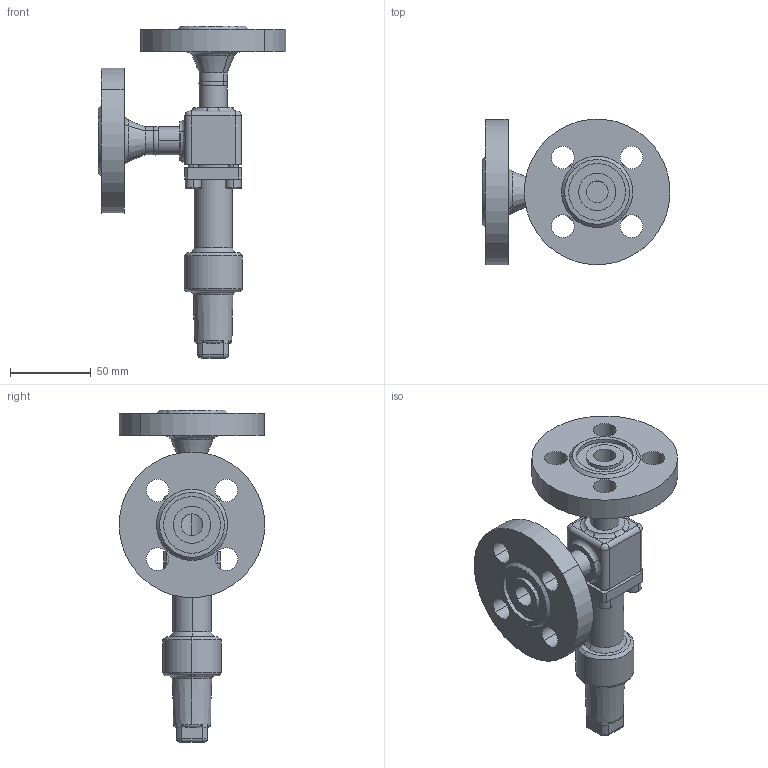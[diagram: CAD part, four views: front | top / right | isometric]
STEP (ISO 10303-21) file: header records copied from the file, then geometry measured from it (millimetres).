
FILE_DESCRIPTION (( 'STEP AP214' ), '1' );
FILE_NAME ('RVAK97420-DN010_DIN-FL-N_PS40.STEP', '2006-05-02T09:20:15', ( 'Herr Grams' ), ( 'AWP GmbH' ), 'SwSTEP 2.0', 'SolidWorks 2002296', '' );
FILE_SCHEMA (( 'AUTOMOTIVE_DESIGN' ));
Length unit declared in the file: millimetre
Products named in the file (10): RVAK97420-DN010_DIN-FL-N_PS40; Kappe96300E10_DN6-20_Standard; RVA99300E10_Deck+Schr-DN6-15_Standard; Deckel99300E10-DN6-15_PS40_Standard; Zylinderschraube-DIN912_M 6x 18; Geh-kpl96420E08-DN10_PS40_DIN-FL_Standard; Flansch-DIN2635-Nut_PS40_DIN-Flansch-DN010_PS40-Nut; Gehäuse96400E08-DN10_PS40_R1_Standard; bead964-DN010-2_Standard; bead964-DN010-1_Standard
Assembly tree (13 placements, depth 3):
  RVAK97420-DN010_DIN-FL-N_PS40
    Geh-kpl96420E08-DN10_PS40_DIN-FL_Standard
      Flansch-DIN2635-Nut_PS40_DIN-Flansch-DN010_PS40-Nut  x2
      bead964-DN010-2_Standard
      bead964-DN010-1_Standard
      Gehäuse96400E08-DN10_PS40_R1_Standard
    Kappe96300E10_DN6-20_Standard
    RVA99300E10_Deck+Schr-DN6-15_Standard
      Deckel99300E10-DN6-15_PS40_Standard
      Zylinderschraube-DIN912_M 6x 18  x4
Bounding box: 115.83 x 89.66 x 205 mm (x, y, z)
Volume: 268343.9 mm3; surface area: 75057.4 mm2
Topology: 11 solids, 11 shells, 308 faces, 690 edges, 427 vertices
Faces by surface type: cylinder 118, plane 93, cone 44, torus 38, bspline 15
Entity records: 13427 total; most frequent: CARTESIAN_POINT 7566, DIRECTION 1138, ORIENTED_EDGE 1008, EDGE_CURVE 504, AXIS2_PLACEMENT_3D 479, VERTEX_POINT 309, EDGE_LOOP 261, CIRCLE 254
